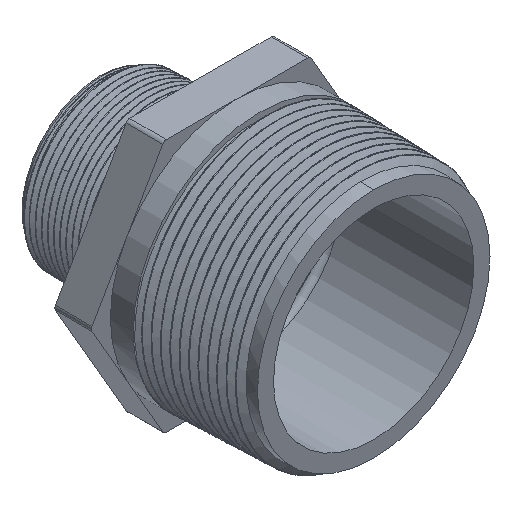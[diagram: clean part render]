
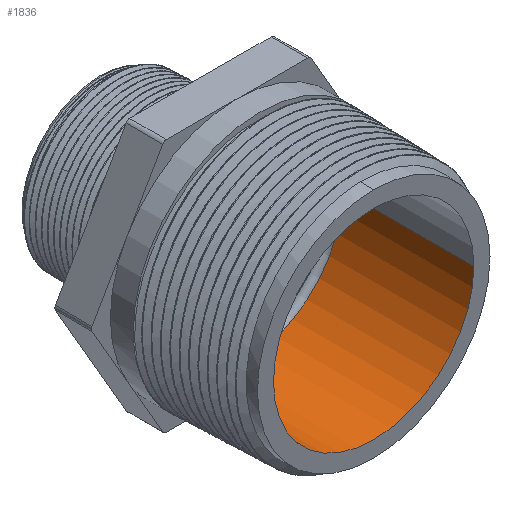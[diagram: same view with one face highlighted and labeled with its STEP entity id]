
A CAD part, isometric view. The second image highlights one B-rep face of the part: STEP entity #1836.
In plain terms, the highlighted cylindrical face has radius 35 mm (diameter 70 mm), a partial arc.
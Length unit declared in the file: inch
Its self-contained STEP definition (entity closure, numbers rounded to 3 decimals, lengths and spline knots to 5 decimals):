
#255=CYLINDRICAL_SURFACE('',#1950,1.37795);
#302=CIRCLE('',#1948,1.37795);
#305=CIRCLE('',#1952,1.37795);
#306=CIRCLE('',#1953,1.37795);
#426=VERTEX_POINT('',#17909);
#427=VERTEX_POINT('',#17912);
#428=VERTEX_POINT('',#17914);
#429=VERTEX_POINT('',#17918);
#430=VERTEX_POINT('',#17920);
#555=VECTOR('',#2148,1.);
#556=VECTOR('',#2151,1.);
#636=LINE('',#17917,#555);
#637=LINE('',#17921,#556);
#839=EDGE_CURVE('',#428,#427,#302,.F.);
#841=EDGE_CURVE('',#429,#428,#636,.T.);
#843=EDGE_CURVE('',#430,#426,#637,.T.);
#844=EDGE_CURVE('',#427,#426,#305,.F.);
#845=EDGE_CURVE('',#430,#429,#306,.F.);
#1297=ORIENTED_EDGE('',*,*,#844,.T.);
#1298=ORIENTED_EDGE('',*,*,#843,.F.);
#1299=ORIENTED_EDGE('',*,*,#845,.T.);
#1300=ORIENTED_EDGE('',*,*,#841,.T.);
#1301=ORIENTED_EDGE('',*,*,#839,.T.);
#1607=EDGE_LOOP('',(#1297,#1298,#1299,#1300,#1301));
#1723=FACE_BOUND('',#1607,.T.);
#1836=ADVANCED_FACE('',(#1723),#255,.F.);
#1948=AXIS2_PLACEMENT_3D('',#17913,#2142,#2143);
#1950=AXIS2_PLACEMENT_3D('',#17916,#2146,#2147);
#1952=AXIS2_PLACEMENT_3D('',#17922,#2152,#2153);
#1953=AXIS2_PLACEMENT_3D('',#17923,#2154,#2155);
#2142=DIRECTION('',(0.,-1.,0.));
#2143=DIRECTION('',(1.378,0.,0.));
#2146=DIRECTION('',(0.,-1.,0.));
#2147=DIRECTION('',(1.378,0.,0.));
#2148=DIRECTION('',(0.,1.,0.));
#2151=DIRECTION('',(0.,1.,0.));
#2152=DIRECTION('',(0.,-1.,0.));
#2153=DIRECTION('',(1.378,0.,0.));
#2154=DIRECTION('',(0.,1.,0.));
#2155=DIRECTION('',(1.378,0.,0.));
#17909=CARTESIAN_POINT('',(-1.37795,-0.3293,0.));
#17912=CARTESIAN_POINT('',(0.,-0.3293,-1.37795));
#17913=CARTESIAN_POINT('',(0.,-0.3293,0.));
#17914=CARTESIAN_POINT('',(1.37795,-0.3293,0.));
#17916=CARTESIAN_POINT('',(0.,-2.13189,0.));
#17917=CARTESIAN_POINT('',(1.37795,-2.13189,0.));
#17918=CARTESIAN_POINT('',(1.37795,-2.13189,0.));
#17920=CARTESIAN_POINT('',(-1.37795,-2.13189,0.));
#17921=CARTESIAN_POINT('',(-1.37795,-2.13189,0.));
#17922=CARTESIAN_POINT('',(0.,-0.3293,0.));
#17923=CARTESIAN_POINT('',(0.,-2.13189,0.));
